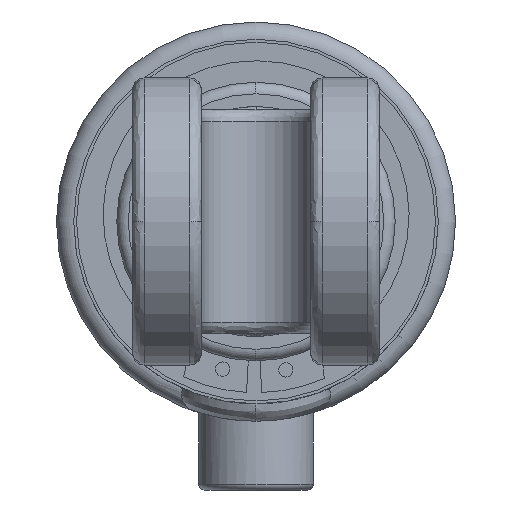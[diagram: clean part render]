
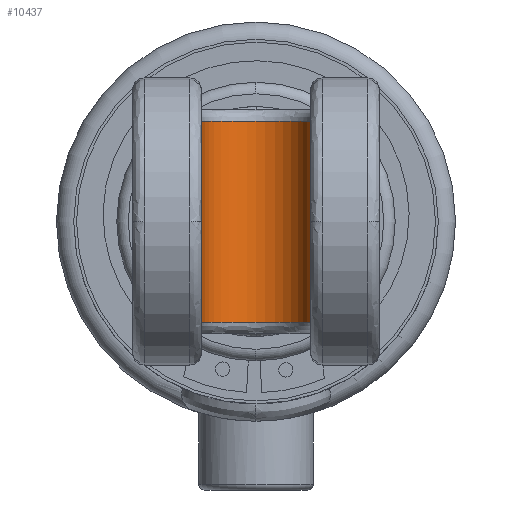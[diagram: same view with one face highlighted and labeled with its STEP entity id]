
A CAD part, left-side view. The second image highlights one B-rep face of the part: STEP entity #10437.
In plain terms, the highlighted cylindrical face has radius 9.5 mm (diameter 19 mm), a partial arc.
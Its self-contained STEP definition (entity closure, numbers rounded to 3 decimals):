
#145 = VERTEX_POINT ( 'NONE', #13509 ) ;
#353 = VECTOR ( 'NONE', #9253, 1000. ) ;
#830 = ORIENTED_EDGE ( 'NONE', *, *, #10239, .F. ) ;
#1880 = CARTESIAN_POINT ( 'NONE',  ( 0.293, -17.446, -17.5 ) ) ;
#2043 = ORIENTED_EDGE ( 'NONE', *, *, #2958, .F. ) ;
#2301 = ORIENTED_EDGE ( 'NONE', *, *, #13563, .F. ) ;
#2432 = CARTESIAN_POINT ( 'NONE',  ( 0.293, -7.946, 17.5 ) ) ;
#2958 = EDGE_CURVE ( 'NONE', #13286, #13134, #3414, .T. ) ;
#3414 = LINE ( 'NONE', #11039, #13658 ) ;
#4368 = DIRECTION ( 'NONE',  ( 1., 0., 0. ) ) ;
#5932 = CARTESIAN_POINT ( 'NONE',  ( 0.293, -7.946, -19.5 ) ) ;
#6555 = ORIENTED_EDGE ( 'NONE', *, *, #17232, .F. ) ;
#7333 = CARTESIAN_POINT ( 'NONE',  ( 0.293, -17.446, -19.5 ) ) ;
#7476 = CIRCLE ( 'NONE', #19393, 9.5 ) ;
#8916 = CARTESIAN_POINT ( 'NONE',  ( 0.293, -7.946, -17.5 ) ) ;
#9253 = DIRECTION ( 'NONE',  ( 0., 0., 1. ) ) ;
#9962 = FACE_OUTER_BOUND ( 'NONE', #18709, .T. ) ;
#10239 = EDGE_CURVE ( 'NONE', #18989, #145, #11163, .T. ) ;
#10437 = ADVANCED_FACE ( 'NONE', ( #9962 ), #19652, .F. ) ;
#10863 = DIRECTION ( 'NONE',  ( 1., 0., 0. ) ) ;
#11039 = CARTESIAN_POINT ( 'NONE',  ( 0.293, 1.554, -19.5 ) ) ;
#11163 = LINE ( 'NONE', #7333, #353 ) ;
#12103 = CARTESIAN_POINT ( 'NONE',  ( 0.293, 1.554, -17.5 ) ) ;
#13134 = VERTEX_POINT ( 'NONE', #12103 ) ;
#13286 = VERTEX_POINT ( 'NONE', #16983 ) ;
#13509 = CARTESIAN_POINT ( 'NONE',  ( 0.293, -17.446, 17.5 ) ) ;
#13563 = EDGE_CURVE ( 'NONE', #145, #13286, #19003, .T. ) ;
#13658 = VECTOR ( 'NONE', #24489, 1000. ) ;
#13705 = AXIS2_PLACEMENT_3D ( 'NONE', #2432, #15925, #4368 ) ;
#15925 = DIRECTION ( 'NONE',  ( 0., 0., -1. ) ) ;
#16983 = CARTESIAN_POINT ( 'NONE',  ( 0.293, 1.554, 17.5 ) ) ;
#17232 = EDGE_CURVE ( 'NONE', #13134, #18989, #7476, .T. ) ;
#17666 = DIRECTION ( 'NONE',  ( 1., 0., 0. ) ) ;
#18279 = AXIS2_PLACEMENT_3D ( 'NONE', #5932, #23146, #17666 ) ;
#18709 = EDGE_LOOP ( 'NONE', ( #830, #6555, #2043, #2301 ) ) ;
#18989 = VERTEX_POINT ( 'NONE', #1880 ) ;
#19003 = CIRCLE ( 'NONE', #13705, 9.5 ) ;
#19393 = AXIS2_PLACEMENT_3D ( 'NONE', #8916, #22391, #10863 ) ;
#19652 = CYLINDRICAL_SURFACE ( 'NONE', #18279, 9.5 ) ;
#22391 = DIRECTION ( 'NONE',  ( 0., 0., 1. ) ) ;
#23146 = DIRECTION ( 'NONE',  ( 0., 0., 1. ) ) ;
#24489 = DIRECTION ( 'NONE',  ( 0., 0., -1. ) ) ;
